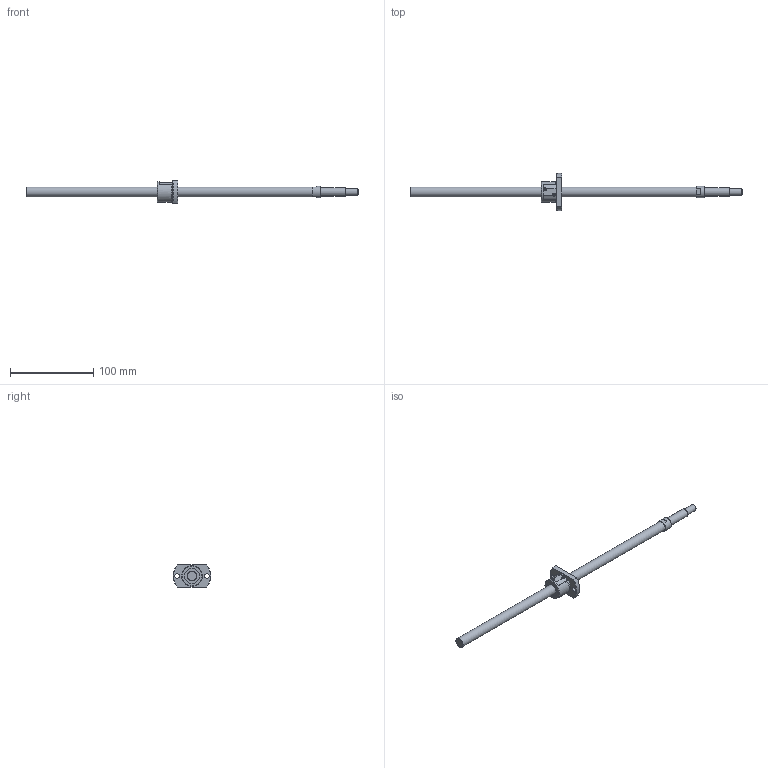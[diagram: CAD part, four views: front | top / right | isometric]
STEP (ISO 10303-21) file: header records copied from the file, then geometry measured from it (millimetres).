
FILE_DESCRIPTION(/* description */ ('STEP AP214'),/* implementation_level */ '2;1');
FILE_NAME(/* name */ 'SG1202-341R400C5A0X(158)',/* time_stamp */ '2026-07-24T15:20:41+02:00',/* author */ ('License CC BY-ND 4.0'),/* organization */ ('CADENAS'),/* preprocessor_version */ 'ST-DEVELOPER v20',/* originating_system */ 'PARTsolutions',/* authorisation */ ' ');
FILE_SCHEMA (('AUTOMOTIVE_DESIGN {1 0 10303 214 3 1 1}'));
Length unit declared in the file: millimetre
Products named in the file (3): SG1202-341R400C5A0X(158); SG1202-341R400C5A_shaft; SG1202 C5_nut
Assembly tree (2 placements, depth 2):
  SG1202-341R400C5A0X(158)
    SG1202-341R400C5A_shaft
    SG1202 C5_nut
Bounding box: 400 x 45 x 27 mm (x, y, z)
Volume: 56066 mm3; surface area: 20456.4 mm2
Topology: 2 solids, 2 shells, 72 faces, 177 edges, 116 vertices
Faces by surface type: plane 35, cylinder 23, cone 13, torus 1
Full cylindrical faces by diameter (mm): 5.5 x2, 8 x1, 10 x1, 12 x2, 14 x1, 18 x2, 24.5 x1, 25 x1
Entity records: 2057 total; most frequent: CARTESIAN_POINT 387, DIRECTION 346, ORIENTED_EDGE 292, EDGE_CURVE 146, AXIS2_PLACEMENT_3D 143, VERTEX_POINT 106, EDGE_LOOP 106, FACE_BOUND 106
